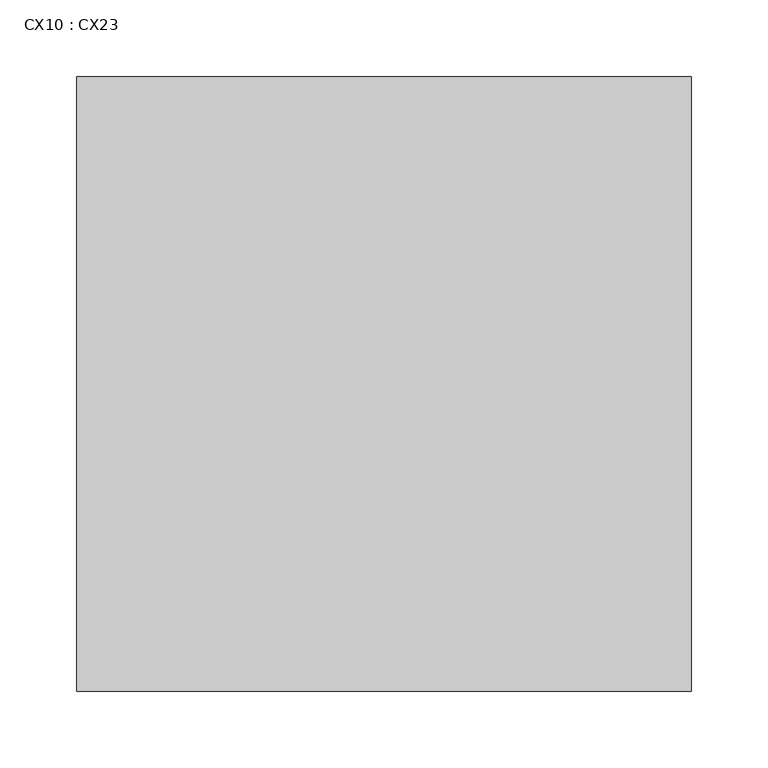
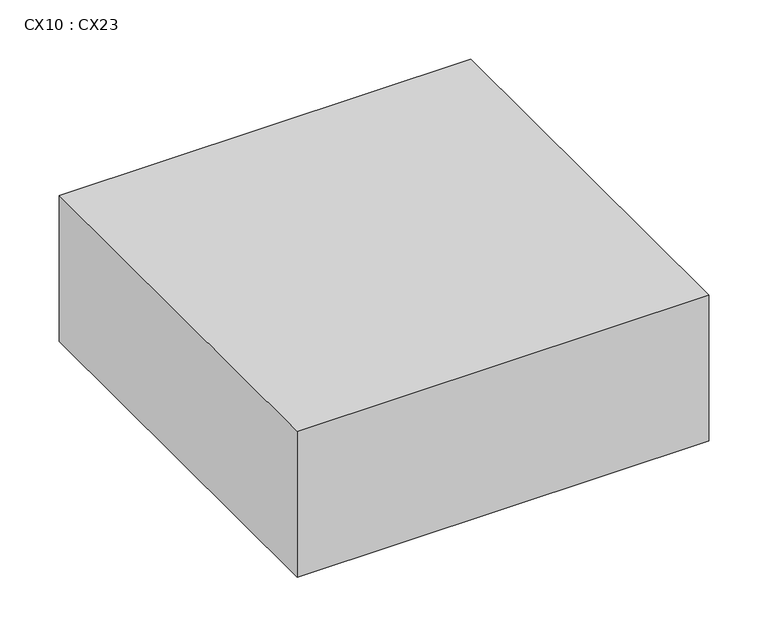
"""IFC4 building model written with IfcOpenShell, lengths in millimetres: proxy geometry, CX10 : CX23."""

from ifc_helpers import new_model, si_unit, frame, origin, place, context, project, spatial, polyline, outline, extrude, source, transform, mapped, element, save


def cx10_cx23_1a9b8878(model_context):
    return source(origin(), model_context, "Body", "SweptSolid", [
        extrude(outline(polyline([(23311.7746511, 4816.0121745), (23711.7746511, 4816.0121745), (23711.7746511, 4416.0121745), (23311.7746511, 4416.0121745), (23311.7746511, 4816.0121745)])), frame((0.0, 0.0, 2625.0), z_axis=(0.0, 0.0, 1.0), x_axis=(1.0, 0.0, 0.0)), (0.0, 0.0, 1.0), 150.0),
    ])


if __name__ == "__main__":
    model = new_model("IFC4")
    model_context = context("Model", 3, world=origin())
    ifc_project = project(units=[si_unit("LENGTHUNIT", "METRE", prefix="MILLI")], contexts=[model_context])
    site = spatial("IfcSite", under=ifc_project)
    building = spatial("IfcBuilding", under=site)
    placement = place(None, origin())
    cx10_cx23_shape = cx10_cx23_1a9b8878(model_context)
    element("IfcBuildingElementProxy", 1, Name="CX10 : CX23", ObjectType="CX10 : CX23", at=placement, inside=building, context=model_context, shape_type="MappedRepresentation", body=[
        mapped(cx10_cx23_shape, transform((0.0, 0.0, 0.0), x_axis=(1.0, 0.0, 0.0), y_axis=(0.0, 1.0, 0.0), z_axis=(0.0, 0.0, 1.0))),
    ])
    save(model, "model.ifc")
